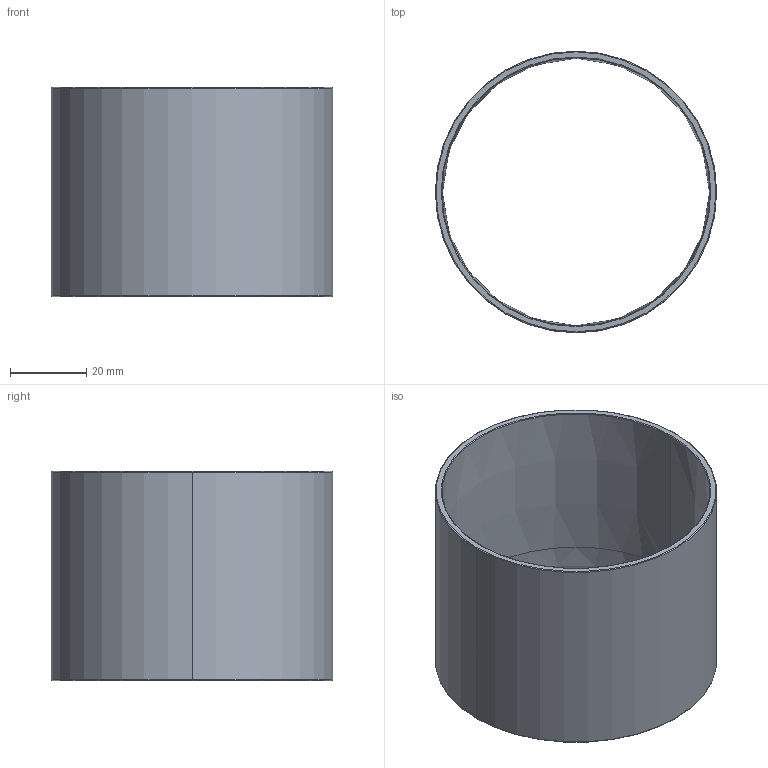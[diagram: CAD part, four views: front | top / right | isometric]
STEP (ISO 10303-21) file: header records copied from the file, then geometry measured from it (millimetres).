
FILE_DESCRIPTION(('FreeCAD Model'),'2;1');
FILE_NAME('Open CASCADE Shape Model','2024-08-30T09:43:15',( 'Lukas Balthasar Pank'),('Astera LED Technology GmbH'), 'Open CASCADE STEP processor 7.6','FreeCAD','Unknown');
FILE_SCHEMA(('AUTOMOTIVE_DESIGN { 1 0 10303 214 1 1 1 1 }'));
Length unit declared in the file: millimetre
Products named in the file (1): FP7-LSN_LunaSnoot_3D-STEP
Bounding box: 74 x 74 x 55 mm (x, y, z)
Volume: 22488.3 mm3; surface area: 25784.7 mm2
Topology: 1 solids, 1 shells, 54 faces, 134 edges, 82 vertices
Faces by surface type: plane 22, cone 15, cylinder 11, torus 6
Entity records: 1667 total; most frequent: CARTESIAN_POINT 394, DIRECTION 268, ORIENTED_EDGE 268, EDGE_CURVE 134, AXIS2_PLACEMENT_3D 111, VERTEX_POINT 82, FACE_BOUND 56, EDGE_LOOP 56
